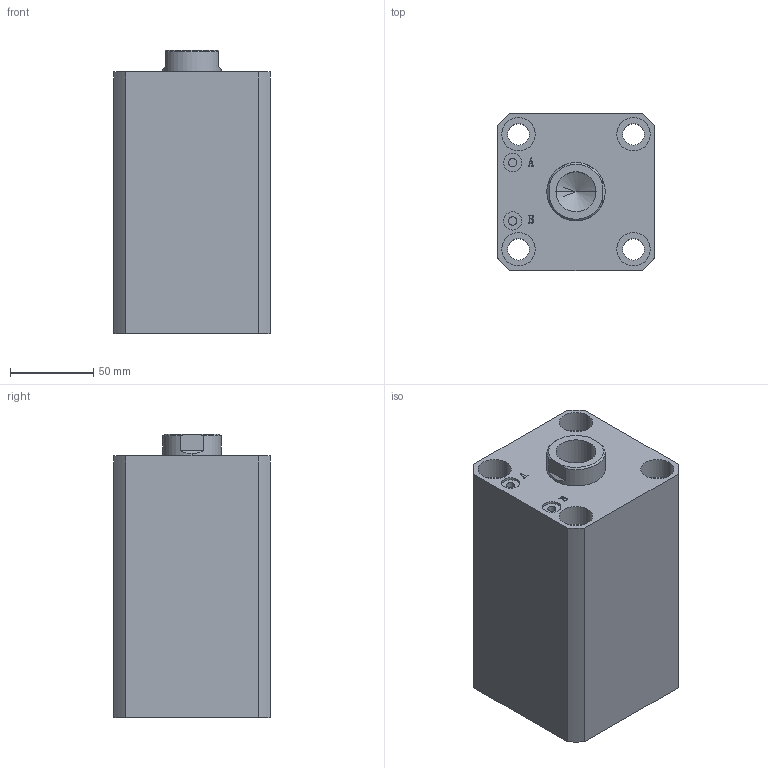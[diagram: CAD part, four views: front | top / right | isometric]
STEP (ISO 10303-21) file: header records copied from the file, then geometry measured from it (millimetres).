
FILE_DESCRIPTION (( 'STEP AP203' ), '1' );
FILE_NAME ('HTB-SDMA63-90N.STEP', '2019-10-08T01:15:13', ( '微软用户' ), ( '微软中国' ), 'SwSTEP 2.0', 'SolidWorks 2012', '' );
FILE_SCHEMA (( 'CONFIG_CONTROL_DESIGN' ));
Length unit declared in the file: millimetre
Products named in the file (3): HTB-SDMA63-90N; HTB-SDMA63-90N活塞杆; HTB-SDMA63-90掛极
Assembly tree (2 placements, depth 2):
  HTB-SDMA63-90N
    HTB-SDMA63-90掛极
    HTB-SDMA63-90N活塞杆
Bounding box: 94 x 94 x 170 mm (x, y, z)
Volume: 1067949.4 mm3; surface area: 158136.3 mm2
Topology: 2 solids, 2 shells, 137 faces, 331 edges, 217 vertices
Faces by surface type: plane 65, cylinder 46, bspline 16, torus 6, cone 4
Entity records: 5070 total; most frequent: CARTESIAN_POINT 1576, ORIENTED_EDGE 658, DIRECTION 647, EDGE_CURVE 329, AXIS2_PLACEMENT_3D 232, VERTEX_POINT 217, VECTOR 183, LINE 183
